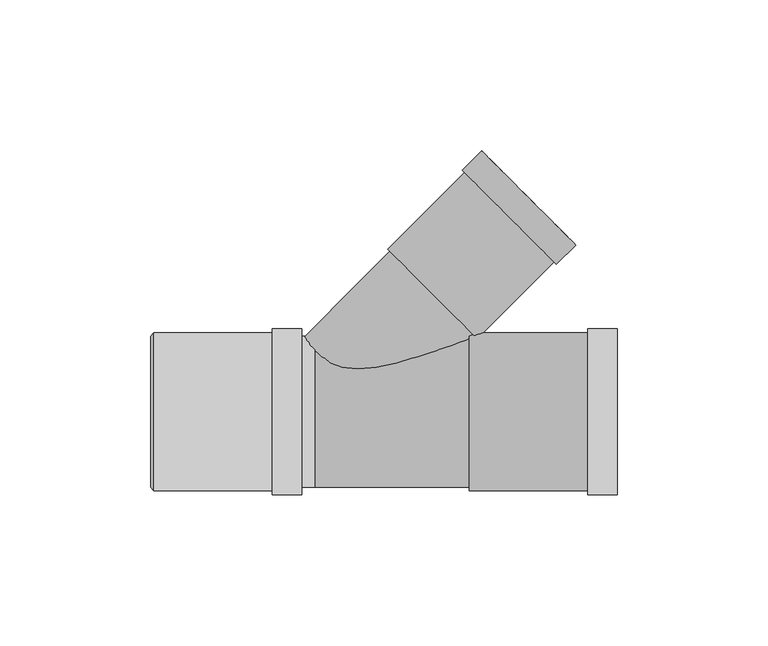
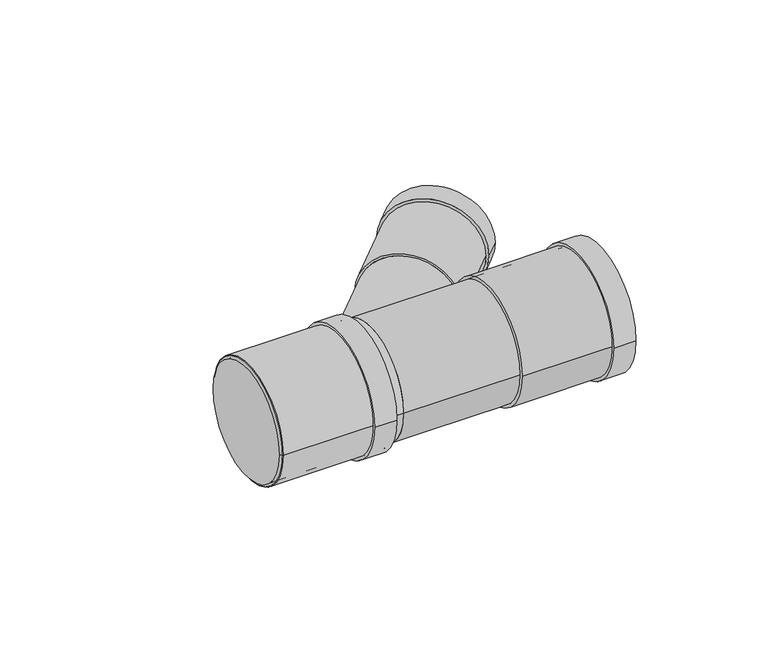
"""IFC4 building model written with IfcOpenShell, lengths in millimetres: pipe fitting geometry, Superdrain HTEA Branch : Superdrain HTEA Branch."""

from ifc_helpers import new_model, si_unit, point, frame, origin, origin_2d, place, context, project, spatial, polyline, circle_curve, trimmed, segment, composite_curve, outline, extrude, source, transform, mapped, element, save
from ifc_brep_helpers import plane_surface, cylinder_surface, revolved_surface, advanced_brep


def pipe_fitting_fcfd2369(model_context):
    return source(origin(), model_context, "Body", "SolidModel", [
        extrude(outline(composite_curve([segment(trimmed(circle_curve(origin_2d(), 26.25), [point((26.25, 0.0))], [point((-26.25, 0.0))], False, "CARTESIAN"), True, "CONTINUOUS"), segment(trimmed(circle_curve(origin_2d(), 26.25), [point((-26.25, 0.0))], [point((26.25, 0.0))], False, "CARTESIAN"), True, "CONTINUOUS")], self_intersect=False), holes=[composite_curve([segment(trimmed(circle_curve(origin_2d(), 25.0), [point((25.0, 0.0))], [point((-25.0, 0.0))], True, "CARTESIAN"), True, "CONTINUOUS"), segment(trimmed(circle_curve(origin_2d(), 25.0), [point((-25.0, 0.0))], [point((25.0, 0.0))], True, "CARTESIAN"), True, "CONTINUOUS")], self_intersect=False)]), frame((-53.3, 0.0, 0.0), z_axis=(1.0, 0.0, 0.0), x_axis=(0.0, 1.0, 0.0)), (0.0, 0.0, 1.0), 49.0),
        extrude(outline(composite_curve([segment(trimmed(circle_curve(origin_2d(), 27.5625), [point((27.5625, 0.0))], [point((-27.5625, 0.0))], False, "CARTESIAN"), True, "CONTINUOUS"), segment(trimmed(circle_curve(origin_2d(), 27.5625), [point((-27.5625, 0.0))], [point((27.5625, 0.0))], False, "CARTESIAN"), True, "CONTINUOUS")], self_intersect=False), holes=[composite_curve([segment(trimmed(circle_curve(origin_2d(), 25.0), [point((25.0, 0.0))], [point((-25.0, 0.0))], True, "CARTESIAN"), True, "CONTINUOUS"), segment(trimmed(circle_curve(origin_2d(), 25.0), [point((-25.0, 0.0))], [point((25.0, 0.0))], True, "CARTESIAN"), True, "CONTINUOUS")], self_intersect=False)]), frame((-14.1, 0.0, 0.0), z_axis=(1.0, 0.0, 0.0), x_axis=(0.0, 1.0, 0.0)), (0.0, 0.0, 1.0), 9.8),
        advanced_brep(
        [(-54.3, 25.0, 0.0), (-54.3, -25.0, 0.0), (-53.3, 26.25, 0.0), (-53.3, -26.25, 0.0)],
        [
            (0, 1, circle_curve(frame((-54.3, 0.0, 0.0), z_axis=(-1.0, 0.0, 0.0), x_axis=(0.0, 1.0000000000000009, 0.0)), 25.0)),
            (1, 0, circle_curve(frame((-54.3, 0.0, 0.0), z_axis=(-1.0, 0.0, 0.0), x_axis=(0.0, -1.0000000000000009, 0.0)), 25.0)),
            (2, 3, circle_curve(frame((-53.3, 0.0, 0.0), z_axis=(1.0, 0.0, 0.0), x_axis=(0.0, -1.0000000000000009, 0.0)), 26.25)),
            (3, 2, circle_curve(frame((-53.3, 0.0, 0.0), z_axis=(1.0, 0.0, 0.0), x_axis=(0.0, 1.0000000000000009, 0.0)), 26.25)),
            (3, 1),
            (0, 2),
        ],
        [
            plane_surface(frame((-54.3, 0.0, 0.0), z_axis=(-1.0, 0.0, 0.0), x_axis=(0.0, 0.0, -1.0))),
            plane_surface(frame((-53.3, 0.0, 0.0), z_axis=(1.0, 0.0, 0.0), x_axis=(0.0, 0.0, -1.0))),
            revolved_surface(polyline([(-54.3, 24.999999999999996, 0.0), (-53.3, 26.25, 0.0)]), (-74.3, 0.0, 0.0), (1.0000000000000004, 0.0, 0.0)),
            revolved_surface(polyline([(-54.3, -24.999999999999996, 0.0), (-53.3, -26.25, 0.0)]), (-74.3, 0.0, 0.0), (1.0000000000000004, 0.0, 0.0)),
        ],
        [
            (0, [[1, 2]]),
            (1, [[3, 4]]),
            (2, [[-4, 5, -1, 6]]),
            (3, [[-3, -6, -2, -5]]),
        ],
    ),
        advanced_brep(
        [(51.2, -26.25, 0.0), (51.2, 26.25, 0.0), (100.2, -26.25, 0.0), (100.2, 26.25, 0.0), (100.2, -25.0, 0.0), (100.2, 25.0, 0.0), (52.2, -25.0, 0.0), (52.2, 25.0, 0.0)],
        [
            (0, 1, circle_curve(frame((51.2, 0.0, 0.0), z_axis=(-1.0, 0.0, 0.0), x_axis=(0.0, 1.0, 0.0)), 26.25)),
            (1, 0, circle_curve(frame((51.2, 0.0, 0.0), z_axis=(-1.0, 0.0, 0.0), x_axis=(0.0, 1.0, 0.0)), 26.25)),
            (2, 3, circle_curve(frame((100.2, 0.0, 0.0), z_axis=(1.0, 0.0, 0.0), x_axis=(0.0, 1.0, 0.0)), 26.25)),
            (3, 2, circle_curve(frame((100.2, 0.0, 0.0), z_axis=(1.0, 0.0, 0.0), x_axis=(0.0, 1.0, 0.0)), 26.25)),
            (4, 5, circle_curve(frame((100.2, 0.0, 0.0), z_axis=(-1.0, 0.0, 0.0), x_axis=(0.0, 1.0, 0.0)), 25.0)),
            (5, 4, circle_curve(frame((100.2, 0.0, 0.0), z_axis=(-1.0, 0.0, 0.0), x_axis=(0.0, 1.0, 0.0)), 25.0)),
            (0, 2),
            (3, 1),
            (6, 7, circle_curve(frame((52.2, 0.0, 0.0), z_axis=(-1.0, 0.0, 0.0), x_axis=(0.0, 1.0, 0.0)), 25.0)),
            (7, 5),
            (4, 6),
            (7, 6, circle_curve(frame((52.2, 0.0, 0.0), z_axis=(-1.0, 0.0, 0.0), x_axis=(0.0, 1.0, 0.0)), 25.0)),
        ],
        [
            plane_surface(frame((51.2, 0.0, 0.0), z_axis=(-1.0, 0.0, 0.0), x_axis=(0.0, 0.0, 1.0))),
            plane_surface(frame((100.2, 0.0, 0.0), z_axis=(1.0, 0.0, 0.0), x_axis=(0.0, 0.0, 1.0))),
            cylinder_surface(frame((51.2, 0.0, 0.0), z_axis=(-1.0, 0.0, 0.0), x_axis=(0.0, 1.0, 0.0)), 26.25),
            revolved_surface(polyline([(52.2, 25.0, 0.0), (100.2, 25.0, 0.0)]), (52.2, 0.0, 0.0), (-1.0, 0.0, 0.0)),
            plane_surface(frame((52.2, 0.0, 0.0), z_axis=(1.0, 0.0, 0.0), x_axis=(0.0, 0.0, 1.0))),
        ],
        [
            (0, [[1, 2]]),
            (1, [[3, 4], [5, 6]]),
            (2, [[-1, 7, -4, 8]]),
            (2, [[-2, -8, -3, -7]]),
            (3, [[9, 10, -5, 11]]),
            (3, [[12, -11, -6, -10]]),
            (4, [[-12, -9]]),
        ],
    ),
        extrude(outline(composite_curve([segment(trimmed(circle_curve(origin_2d(), 27.5625), [point((27.5625, 0.0))], [point((-27.5625, 0.0))], False, "CARTESIAN"), True, "CONTINUOUS"), segment(trimmed(circle_curve(origin_2d(), 27.5625), [point((-27.5625, 0.0))], [point((27.5625, 0.0))], False, "CARTESIAN"), True, "CONTINUOUS")], self_intersect=False), holes=[composite_curve([segment(trimmed(circle_curve(origin_2d(), 25.0), [point((25.0, 0.0))], [point((-25.0, 0.0))], True, "CARTESIAN"), True, "CONTINUOUS"), segment(trimmed(circle_curve(origin_2d(), 25.0), [point((-25.0, 0.0))], [point((25.0, 0.0))], True, "CARTESIAN"), True, "CONTINUOUS")], self_intersect=False)]), frame((90.4, 0.0, 0.0), z_axis=(1.0, 0.0, 0.0), x_axis=(0.0, 1.0, 0.0)), (0.0, 0.0, 1.0), 9.8),
        extrude(outline(composite_curve([segment(trimmed(circle_curve(origin_2d(), 20.0), [point((0.0, 20.0))], [point((0.0, -20.0))], False, "CARTESIAN"), True, "CONTINUOUS"), segment(trimmed(circle_curve(origin_2d(), 20.0), [point((0.0, -20.0))], [point((0.0, 20.0))], False, "CARTESIAN"), True, "CONTINUOUS")], self_intersect=False)), frame((0.0, 0.0, 0.0), z_axis=(0.7071067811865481, 0.707106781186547, 0.0), x_axis=(0.0, 0.0, 1.0)), (0.0, 0.0, 1.0), 55.2),
        extrude(outline(composite_curve([segment(trimmed(circle_curve(origin_2d(), 25.0), [point((25.0, 0.0))], [point((-25.0, 0.0))], False, "CARTESIAN"), True, "CONTINUOUS"), segment(trimmed(circle_curve(origin_2d(), 25.0), [point((-25.0, 0.0))], [point((25.0, 0.0))], False, "CARTESIAN"), True, "CONTINUOUS")], self_intersect=False)), frame((-53.3, 0.0, 0.0), z_axis=(1.0, 0.0, 0.0), x_axis=(0.0, 1.0, 0.0)), (0.0, 0.0, 1.0), 53.3),
        extrude(outline(composite_curve([segment(trimmed(circle_curve(origin_2d(), 25.0), [point((-25.0, 0.0))], [point((25.0, 0.0))], False, "CARTESIAN"), True, "CONTINUOUS"), segment(trimmed(circle_curve(origin_2d(), 25.0), [point((25.0, 0.0))], [point((-25.0, 0.0))], False, "CARTESIAN"), True, "CONTINUOUS")], self_intersect=False)), frame((0.0, 0.0, 0.0), z_axis=(1.0, 0.0, 0.0), x_axis=(0.0, 1.0, 0.0)), (0.0, 0.0, 1.0), 51.2),
        extrude(outline(composite_curve([segment(trimmed(circle_curve(origin_2d(), 22.05), [point((0.0, 22.05))], [point((0.0, -22.05))], False, "CARTESIAN"), True, "CONTINUOUS"), segment(trimmed(circle_curve(origin_2d(), 22.05), [point((0.0, -22.05))], [point((0.0, 22.05))], False, "CARTESIAN"), True, "CONTINUOUS")], self_intersect=False), holes=[composite_curve([segment(trimmed(circle_curve(origin_2d(), 20.0), [point((0.0, 20.0))], [point((0.0, -20.0))], True, "CARTESIAN"), True, "CONTINUOUS"), segment(trimmed(circle_curve(origin_2d(), 20.0), [point((0.0, -20.0))], [point((0.0, 20.0))], True, "CARTESIAN"), True, "CONTINUOUS")], self_intersect=False)]), frame((64.4881384, 64.4881384, 0.0), z_axis=(0.7071067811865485, 0.7071067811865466, 0.0), x_axis=(0.0, 0.0, 1.0)), (0.0, 0.0, 1.0), 9.0),
        extrude(outline(composite_curve([segment(trimmed(circle_curve(origin_2d(), 21.0), [point((0.0, 21.0))], [point((0.0, -21.0))], False, "CARTESIAN"), True, "CONTINUOUS"), segment(trimmed(circle_curve(origin_2d(), 21.0), [point((0.0, -21.0))], [point((0.0, 21.0))], False, "CARTESIAN"), True, "CONTINUOUS")], self_intersect=False), holes=[composite_curve([segment(trimmed(circle_curve(origin_2d(), 20.0), [point((0.0, 20.0))], [point((0.0, -20.0))], True, "CARTESIAN"), True, "CONTINUOUS"), segment(trimmed(circle_curve(origin_2d(), 20.0), [point((0.0, -20.0))], [point((0.0, 20.0))], True, "CARTESIAN"), True, "CONTINUOUS")], self_intersect=False)]), frame((39.0322943, 39.0322943, 0.0), z_axis=(0.7071067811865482, 0.7071067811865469, 0.0), x_axis=(0.0, 0.0, 1.0)), (0.0, 0.0, 1.0), 45.0),
    ])


if __name__ == "__main__":
    model = new_model("IFC4")
    model_context = context("Model", 3, world=origin())
    ifc_project = project(units=[si_unit("LENGTHUNIT", "METRE", prefix="MILLI")], contexts=[model_context])
    site = spatial("IfcSite", under=ifc_project)
    building = spatial("IfcBuilding", under=site)
    placement = place(None, origin())
    pipe_fitting_shape = pipe_fitting_fcfd2369(model_context)
    element("IfcPipeFitting", 1, ObjectType="Superdrain HTEA Branch : Superdrain HTEA Branch", at=placement, inside=building, context=model_context, shape_type="MappedRepresentation", body=[
        mapped(pipe_fitting_shape, transform((0.0, 0.0, 0.0), x_axis=(1.0, 0.0, 0.0), y_axis=(0.0, 1.0, 0.0), z_axis=(0.0, 0.0, 1.0))),
    ])
    save(model, "model.ifc")
